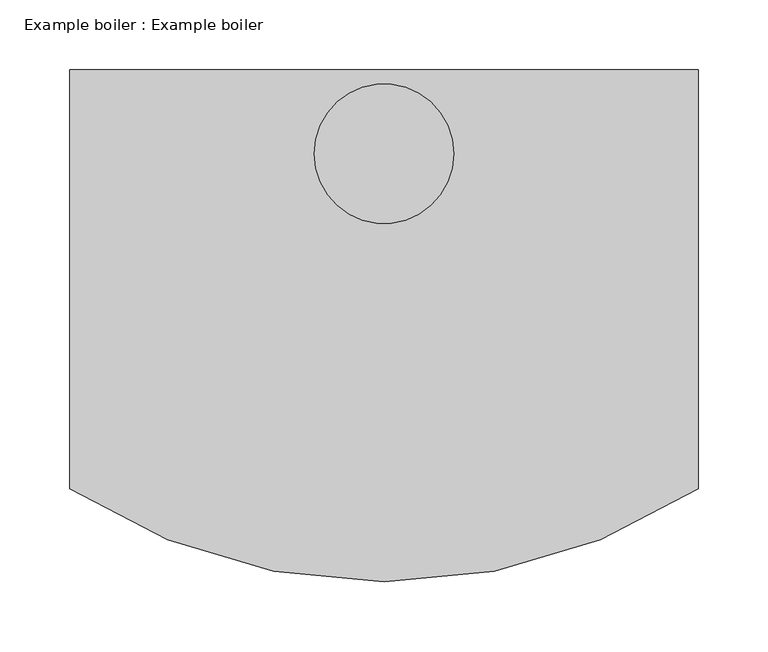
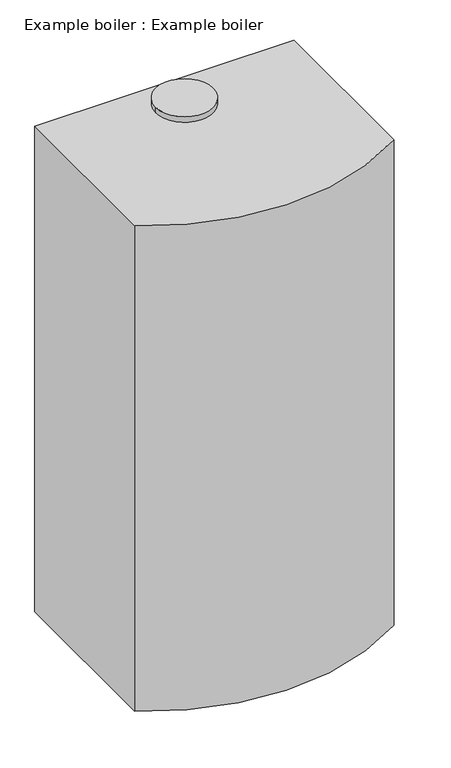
"""IFC4 building model written with IfcOpenShell, lengths in millimetres: proxy geometry, Example boiler : Example boiler."""

from ifc_helpers import new_model, si_unit, point, frame, frame_2d, origin, origin_with_axes, place, context, project, spatial, polyline, circle_curve, trimmed, segment, composite_curve, outline, extrude, source, transform, mapped, element, save


def example_boiler_example_boiler_dbbaee7f(model_context):
    return source(origin(), model_context, "Body", "SweptSolid", [
        extrude(outline(composite_curve([segment(trimmed(circle_curve(frame_2d((225.0, -60.0)), 50.0), [point((175.0, -60.0))], [point((275.0, -60.0))], False, "CARTESIAN"), True, "CONTINUOUS"), segment(trimmed(circle_curve(frame_2d((225.0, -60.0)), 50.0), [point((275.0, -60.0))], [point((175.0, -60.0))], False, "CARTESIAN"), True, "CONTINUOUS")], self_intersect=False)), frame((0.0, 0.0, 890.0), z_axis=(0.0, 0.0, 1.0), x_axis=(1.0, 0.0, 0.0)), (0.0, 0.0, 1.0), 10.0),
        extrude(outline(composite_curve([segment(polyline([(450.0, 0.0), (450.0, -300.0)]), True, "CONTINUOUS"), segment(trimmed(circle_curve(frame_2d((225.0, 46.0749536)), 412.7867168), [point((450.0, -300.0))], [point((0.0, -300.0))], False, "CARTESIAN"), True, "CONTINUOUS"), segment(polyline([(0.0, -300.0), (0.0, 0.0), (450.0, 0.0)]), True, "CONTINUOUS")], self_intersect=False)), origin_with_axes(), (0.0, 0.0, 1.0), 890.0),
    ])


if __name__ == "__main__":
    model = new_model("IFC4")
    model_context = context("Model", 3, world=origin())
    ifc_project = project(units=[si_unit("LENGTHUNIT", "METRE", prefix="MILLI")], contexts=[model_context])
    site = spatial("IfcSite", under=ifc_project)
    building = spatial("IfcBuilding", under=site)
    placement = place(None, origin())
    example_boiler_example_boiler_shape = example_boiler_example_boiler_dbbaee7f(model_context)
    element("IfcBuildingElementProxy", 1, Name="Example boiler : Example boiler", ObjectType="Example boiler : Example boiler", at=placement, inside=building, context=model_context, shape_type="MappedRepresentation", body=[
        mapped(example_boiler_example_boiler_shape, transform((0.0, 0.0, 0.0), x_axis=(1.0, 0.0, 0.0), y_axis=(0.0, 1.0, 0.0), z_axis=(0.0, 0.0, 1.0))),
    ])
    save(model, "model.ifc")
